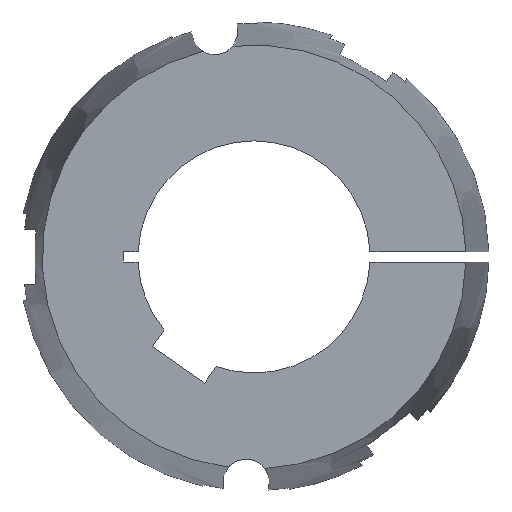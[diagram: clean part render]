
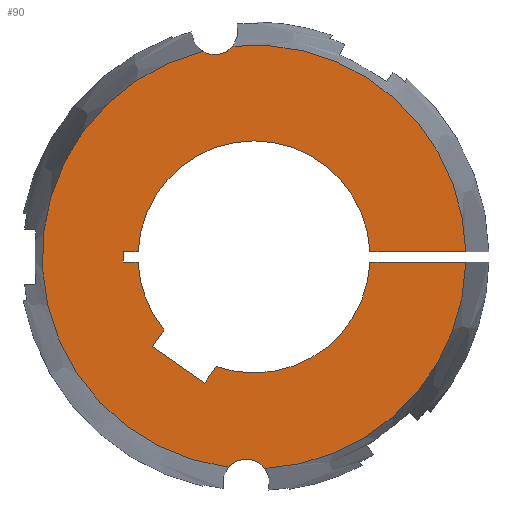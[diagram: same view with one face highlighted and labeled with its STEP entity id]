
A CAD part, left-side view. The second image highlights one B-rep face of the part: STEP entity #90.
In plain terms, the highlighted planar face has unit normal (-1, 0, 0).
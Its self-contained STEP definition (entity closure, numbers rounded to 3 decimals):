
#90 = ADVANCED_FACE( '', ( #140 ), #141, .F. );
#140 = FACE_OUTER_BOUND( '', #208, .T. );
#141 = PLANE( '', #209 );
#208 = EDGE_LOOP( '', ( #369, #370, #371, #372, #373, #374, #375, #376, #377, #378, #379, #380, #381, #382, #383, #384 ) );
#209 = AXIS2_PLACEMENT_3D( '', #385, #386, #387 );
#369 = ORIENTED_EDGE( '', *, *, #548, .F. );
#370 = ORIENTED_EDGE( '', *, *, #601, .F. );
#371 = ORIENTED_EDGE( '', *, *, #570, .T. );
#372 = ORIENTED_EDGE( '', *, *, #583, .T. );
#373 = ORIENTED_EDGE( '', *, *, #581, .T. );
#374 = ORIENTED_EDGE( '', *, *, #578, .T. );
#375 = ORIENTED_EDGE( '', *, *, #587, .T. );
#376 = ORIENTED_EDGE( '', *, *, #602, .T. );
#377 = ORIENTED_EDGE( '', *, *, #603, .T. );
#378 = ORIENTED_EDGE( '', *, *, #604, .T. );
#379 = ORIENTED_EDGE( '', *, *, #605, .T. );
#380 = ORIENTED_EDGE( '', *, *, #606, .T. );
#381 = ORIENTED_EDGE( '', *, *, #572, .T. );
#382 = ORIENTED_EDGE( '', *, *, #607, .F. );
#383 = ORIENTED_EDGE( '', *, *, #551, .F. );
#384 = ORIENTED_EDGE( '', *, *, #608, .F. );
#385 = CARTESIAN_POINT( '', ( -114., 0., 0. ) );
#386 = DIRECTION( '', ( 1., 0., 0. ) );
#387 = DIRECTION( '', ( 0., 1., 0. ) );
#548 = EDGE_CURVE( '', #649, #651, #652, .F. );
#551 = EDGE_CURVE( '', #655, #657, #658, .F. );
#570 = EDGE_CURVE( '', #693, #691, #694, .T. );
#572 = EDGE_CURVE( '', #696, #697, #698, .T. );
#578 = EDGE_CURVE( '', #709, #707, #710, .T. );
#581 = EDGE_CURVE( '', #714, #709, #715, .T. );
#583 = EDGE_CURVE( '', #691, #714, #717, .T. );
#587 = EDGE_CURVE( '', #707, #721, #723, .T. );
#601 = EDGE_CURVE( '', #693, #649, #745, .T. );
#602 = EDGE_CURVE( '', #721, #746, #747, .T. );
#603 = EDGE_CURVE( '', #746, #748, #749, .T. );
#604 = EDGE_CURVE( '', #748, #750, #751, .T. );
#605 = EDGE_CURVE( '', #750, #752, #753, .T. );
#606 = EDGE_CURVE( '', #752, #696, #754, .T. );
#607 = EDGE_CURVE( '', #657, #697, #755, .T. );
#608 = EDGE_CURVE( '', #651, #655, #756, .T. );
#649 = VERTEX_POINT( '', #815 );
#651 = VERTEX_POINT( '', #826 );
#652 = CIRCLE( '', #827, 8.125 );
#655 = VERTEX_POINT( '', #839 );
#657 = VERTEX_POINT( '', #852 );
#658 = CIRCLE( '', #853, 8.125 );
#691 = VERTEX_POINT( '', #920 );
#693 = VERTEX_POINT( '', #923 );
#694 = LINE( '', #924, #925 );
#696 = VERTEX_POINT( '', #933 );
#697 = VERTEX_POINT( '', #934 );
#698 = LINE( '', #935, #936 );
#707 = VERTEX_POINT( '', #954 );
#709 = VERTEX_POINT( '', #957 );
#710 = LINE( '', #958, #959 );
#714 = VERTEX_POINT( '', #965 );
#715 = LINE( '', #966, #967 );
#717 = CIRCLE( '', #970, 40. );
#721 = VERTEX_POINT( '', #975 );
#723 = LINE( '', #978, #979 );
#745 = CIRCLE( '', #1004, 73.028 );
#746 = VERTEX_POINT( '', #1005 );
#747 = CIRCLE( '', #1006, 40. );
#748 = VERTEX_POINT( '', #1007 );
#749 = LINE( '', #1008, #1009 );
#750 = VERTEX_POINT( '', #1010 );
#751 = LINE( '', #1011, #1012 );
#752 = VERTEX_POINT( '', #1013 );
#753 = LINE( '', #1014, #1015 );
#754 = CIRCLE( '', #1016, 40. );
#755 = CIRCLE( '', #1017, 73.028 );
#756 = CIRCLE( '', #1018, 73.028 );
#815 = CARTESIAN_POINT( '', ( -114., -3.751, -72.932 ) );
#826 = CARTESIAN_POINT( '', ( -114., 8.826, -72.493 ) );
#827 = AXIS2_PLACEMENT_3D( '', #1192, #1193, #1194 );
#839 = CARTESIAN_POINT( '', ( -114., 17.661, 70.861 ) );
#852 = CARTESIAN_POINT( '', ( -114., 7.262, 72.666 ) );
#853 = AXIS2_PLACEMENT_3D( '', #1195, #1196, #1197 );
#920 = CARTESIAN_POINT( '', ( -114., -39.962, -1.75 ) );
#923 = CARTESIAN_POINT( '', ( -114., -73.007, -1.75 ) );
#924 = CARTESIAN_POINT( '', ( -114., -81., -1.75 ) );
#925 = VECTOR( '', #1227, 1000. );
#933 = CARTESIAN_POINT( '', ( -114., -39.962, 1.75 ) );
#934 = CARTESIAN_POINT( '', ( -114., -73.007, 1.75 ) );
#935 = CARTESIAN_POINT( '', ( -114., 0., 1.75 ) );
#936 = VECTOR( '', #1228, 1000. );
#954 = CARTESIAN_POINT( '', ( -114., 35.051, -30.88 ) );
#957 = CARTESIAN_POINT( '', ( -114., 17.03, -43.499 ) );
#958 = CARTESIAN_POINT( '', ( -114., 17.03, -43.499 ) );
#959 = VECTOR( '', #1233, 1000. );
#965 = CARTESIAN_POINT( '', ( -114., 13.048, -37.812 ) );
#966 = CARTESIAN_POINT( '', ( -114., 13.048, -37.812 ) );
#967 = VECTOR( '', #1236, 1000. );
#970 = AXIS2_PLACEMENT_3D( '', #1238, #1239, #1240 );
#975 = CARTESIAN_POINT( '', ( -114., 31.069, -25.193 ) );
#978 = CARTESIAN_POINT( '', ( -114., 35.051, -30.88 ) );
#979 = VECTOR( '', #1246, 1000. );
#1004 = AXIS2_PLACEMENT_3D( '', #1280, #1281, #1282 );
#1005 = CARTESIAN_POINT( '', ( -114., 39.962, -1.75 ) );
#1006 = AXIS2_PLACEMENT_3D( '', #1283, #1284, #1285 );
#1007 = CARTESIAN_POINT( '', ( -114., 45., -1.75 ) );
#1008 = CARTESIAN_POINT( '', ( -114., 0., -1.75 ) );
#1009 = VECTOR( '', #1286, 1000. );
#1010 = CARTESIAN_POINT( '', ( -114., 45., 1.75 ) );
#1011 = CARTESIAN_POINT( '', ( -114., 45., -1.75 ) );
#1012 = VECTOR( '', #1287, 1000. );
#1013 = CARTESIAN_POINT( '', ( -114., 39.962, 1.75 ) );
#1014 = CARTESIAN_POINT( '', ( -114., 45., 1.75 ) );
#1015 = VECTOR( '', #1288, 1000. );
#1016 = AXIS2_PLACEMENT_3D( '', #1289, #1290, #1291 );
#1017 = AXIS2_PLACEMENT_3D( '', #1292, #1293, #1294 );
#1018 = AXIS2_PLACEMENT_3D( '', #1295, #1296, #1297 );
#1192 = CARTESIAN_POINT( '', ( -114., 2.717, -77.85 ) );
#1193 = DIRECTION( '', ( 1., 0., 0. ) );
#1194 = DIRECTION( '', ( 0., 1., 0. ) );
#1195 = CARTESIAN_POINT( '', ( -114., 13.519, 77.85 ) );
#1196 = DIRECTION( '', ( 1., 0., 0. ) );
#1197 = DIRECTION( '', ( 0., 1., 0. ) );
#1227 = DIRECTION( '', ( 0., 1., 0. ) );
#1228 = DIRECTION( '', ( 0., -1., 0. ) );
#1233 = DIRECTION( '', ( 0., 0.819, 0.574 ) );
#1236 = DIRECTION( '', ( 0., 0.574, -0.819 ) );
#1238 = CARTESIAN_POINT( '', ( -114., 0., 0. ) );
#1239 = DIRECTION( '', ( 1., 0., 0. ) );
#1240 = DIRECTION( '', ( 0., 0., -1. ) );
#1246 = DIRECTION( '', ( 0., -0.574, 0.819 ) );
#1280 = CARTESIAN_POINT( '', ( -114., 0., 0. ) );
#1281 = DIRECTION( '', ( 1., 0., 0. ) );
#1282 = DIRECTION( '', ( 0., 1., 0. ) );
#1283 = CARTESIAN_POINT( '', ( -114., 0., 0. ) );
#1284 = DIRECTION( '', ( 1., 0., 0. ) );
#1285 = DIRECTION( '', ( 0., 0., -1. ) );
#1286 = DIRECTION( '', ( 0., 1., 0. ) );
#1287 = DIRECTION( '', ( 0., 0., 1. ) );
#1288 = DIRECTION( '', ( 0., -1., 0. ) );
#1289 = CARTESIAN_POINT( '', ( -114., 0., 0. ) );
#1290 = DIRECTION( '', ( 1., 0., 0. ) );
#1291 = DIRECTION( '', ( 0., 0., -1. ) );
#1292 = CARTESIAN_POINT( '', ( -114., 0., 0. ) );
#1293 = DIRECTION( '', ( 1., 0., 0. ) );
#1294 = DIRECTION( '', ( 0., 1., 0. ) );
#1295 = CARTESIAN_POINT( '', ( -114., 0., 0. ) );
#1296 = DIRECTION( '', ( 1., 0., 0. ) );
#1297 = DIRECTION( '', ( 0., 1., 0. ) );
